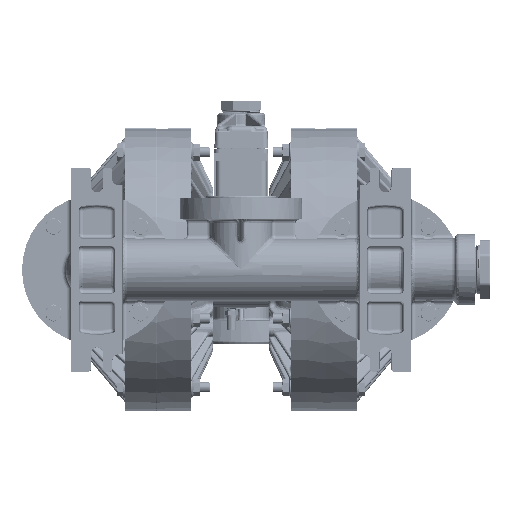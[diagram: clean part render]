
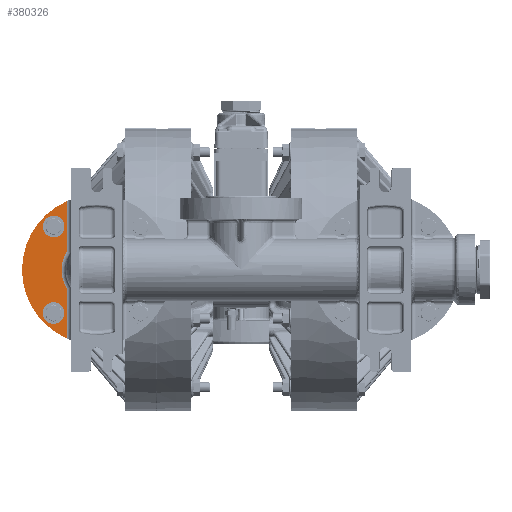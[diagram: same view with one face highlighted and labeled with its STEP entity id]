
A CAD part, front view. The second image highlights one B-rep face of the part: STEP entity #380326.
In plain terms, the highlighted planar face has unit normal (0, -1, 0).
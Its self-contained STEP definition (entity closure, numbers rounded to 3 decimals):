
#4720 = CARTESIAN_POINT ( 'NONE',  ( -8.57, -10.5, -0.895 ) ) ;
#16536 = LINE ( 'NONE', #516774, #341215 ) ;
#38113 = VECTOR ( 'NONE', #787550, 39.37 ) ;
#40031 = DIRECTION ( 'NONE',  ( 0., 1., 0. ) ) ;
#57939 = DIRECTION ( 'NONE',  ( -0.404, 0., 0.915 ) ) ;
#59308 = ORIENTED_EDGE ( 'NONE', *, *, #735595, .F. ) ;
#64632 = VERTEX_POINT ( 'NONE', #867452 ) ;
#65077 = LINE ( 'NONE', #4720, #38113 ) ;
#67402 = ORIENTED_EDGE ( 'NONE', *, *, #577866, .T. ) ;
#67473 = ORIENTED_EDGE ( 'NONE', *, *, #872135, .T. ) ;
#71580 = EDGE_CURVE ( 'NONE', #216956, #141379, #16536, .T. ) ;
#82610 = EDGE_LOOP ( 'NONE', ( #793213, #67473, #59308, #157442 ) ) ;
#99202 = CARTESIAN_POINT ( 'NONE',  ( -7.083, -10.5, 0. ) ) ;
#105317 = CARTESIAN_POINT ( 'NONE',  ( 0., -10.5, 0. ) ) ;
#130476 = DIRECTION ( 'NONE',  ( 0., 0., 1. ) ) ;
#139974 = EDGE_CURVE ( 'NONE', #141379, #259945, #268353, .T. ) ;
#141379 = VERTEX_POINT ( 'NONE', #653210 ) ;
#157442 = ORIENTED_EDGE ( 'NONE', *, *, #139974, .F. ) ;
#174871 = FACE_OUTER_BOUND ( 'NONE', #82610, .T. ) ;
#184966 = AXIS2_PLACEMENT_3D ( 'NONE', #859005, #632234, #437399 ) ;
#190904 = CARTESIAN_POINT ( 'NONE',  ( -9.207, -10.5, 2.125 ) ) ;
#205435 = CARTESIAN_POINT ( 'NONE',  ( -8.57, -10.5, 3.363 ) ) ;
#216956 = VERTEX_POINT ( 'NONE', #205435 ) ;
#219292 = AXIS2_PLACEMENT_3D ( 'NONE', #281390, #624387, #563974 ) ;
#247305 = VERTEX_POINT ( 'NONE', #671921 ) ;
#248918 = DIRECTION ( 'NONE',  ( 0., 0., -1. ) ) ;
#259945 = VERTEX_POINT ( 'NONE', #335152 ) ;
#268353 = CIRCLE ( 'NONE', #771540, 1.735 ) ;
#275646 = EDGE_LOOP ( 'NONE', ( #67402, #807913 ) ) ;
#281390 = CARTESIAN_POINT ( 'NONE',  ( -9.207, -10.5, -2.125 ) ) ;
#284759 = AXIS2_PLACEMENT_3D ( 'NONE', #105317, #387889, #248918 ) ;
#307492 = VERTEX_POINT ( 'NONE', #317128 ) ;
#317128 = CARTESIAN_POINT ( 'NONE',  ( -9.207, -10.5, 1.594 ) ) ;
#322599 = DIRECTION ( 'NONE',  ( 0., 0., -1. ) ) ;
#335152 = CARTESIAN_POINT ( 'NONE',  ( -8.57, -10.5, -0.895 ) ) ;
#335756 = EDGE_CURVE ( 'NONE', #247305, #64632, #805901, .T. ) ;
#341215 = VECTOR ( 'NONE', #850615, 39.37 ) ;
#355696 = AXIS2_PLACEMENT_3D ( 'NONE', #190904, #765172, #130476 ) ;
#380326 = ADVANCED_FACE ( 'NONE', ( #174871, #457362, #740008 ), #600913, .T. ) ;
#387889 = DIRECTION ( 'NONE',  ( 0., -1., 0. ) ) ;
#412339 = AXIS2_PLACEMENT_3D ( 'NONE', #914788, #414535, #57939 ) ;
#414535 = DIRECTION ( 'NONE',  ( 0., -1., 0. ) ) ;
#416333 = VERTEX_POINT ( 'NONE', #692866 ) ;
#437399 = DIRECTION ( 'NONE',  ( 0., 0., 1. ) ) ;
#442107 = CIRCLE ( 'NONE', #412339, 3.677 ) ;
#449134 = AXIS2_PLACEMENT_3D ( 'NONE', #665556, #40031, #322599 ) ;
#457362 = FACE_BOUND ( 'NONE', #275646, .T. ) ;
#485753 = CIRCLE ( 'NONE', #219292, 0.531 ) ;
#516774 = CARTESIAN_POINT ( 'NONE',  ( -8.57, -10.5, 3.363 ) ) ;
#560231 = ORIENTED_EDGE ( 'NONE', *, *, #770383, .T. ) ;
#563974 = DIRECTION ( 'NONE',  ( 0., 0., -1. ) ) ;
#577866 = EDGE_CURVE ( 'NONE', #64632, #247305, #485753, .T. ) ;
#590456 = VERTEX_POINT ( 'NONE', #760448 ) ;
#600913 = PLANE ( 'NONE',  #284759 ) ;
#624387 = DIRECTION ( 'NONE',  ( 0., 1., 0. ) ) ;
#632234 = DIRECTION ( 'NONE',  ( 0., 1., 0. ) ) ;
#649558 = EDGE_CURVE ( 'NONE', #307492, #590456, #848537, .T. ) ;
#653210 = CARTESIAN_POINT ( 'NONE',  ( -8.57, -10.5, 0.895 ) ) ;
#655234 = DIRECTION ( 'NONE',  ( 0., -1., 0. ) ) ;
#665556 = CARTESIAN_POINT ( 'NONE',  ( -9.207, -10.5, 2.125 ) ) ;
#671921 = CARTESIAN_POINT ( 'NONE',  ( -9.207, -10.5, -1.594 ) ) ;
#692866 = CARTESIAN_POINT ( 'NONE',  ( -8.57, -10.5, -3.363 ) ) ;
#727412 = ORIENTED_EDGE ( 'NONE', *, *, #649558, .T. ) ;
#735595 = EDGE_CURVE ( 'NONE', #259945, #416333, #65077, .T. ) ;
#740008 = FACE_BOUND ( 'NONE', #825993, .T. ) ;
#755234 = CIRCLE ( 'NONE', #355696, 0.531 ) ;
#756744 = DIRECTION ( 'NONE',  ( -0.857, 0., 0.516 ) ) ;
#760448 = CARTESIAN_POINT ( 'NONE',  ( -9.207, -10.5, 2.656 ) ) ;
#765172 = DIRECTION ( 'NONE',  ( 0., 1., 0. ) ) ;
#770383 = EDGE_CURVE ( 'NONE', #590456, #307492, #755234, .T. ) ;
#771540 = AXIS2_PLACEMENT_3D ( 'NONE', #99202, #655234, #756744 ) ;
#787550 = DIRECTION ( 'NONE',  ( 0., 0., -1. ) ) ;
#793213 = ORIENTED_EDGE ( 'NONE', *, *, #71580, .F. ) ;
#805901 = CIRCLE ( 'NONE', #184966, 0.531 ) ;
#807913 = ORIENTED_EDGE ( 'NONE', *, *, #335756, .T. ) ;
#825993 = EDGE_LOOP ( 'NONE', ( #727412, #560231 ) ) ;
#848537 = CIRCLE ( 'NONE', #449134, 0.531 ) ;
#850615 = DIRECTION ( 'NONE',  ( 0., 0., -1. ) ) ;
#859005 = CARTESIAN_POINT ( 'NONE',  ( -9.207, -10.5, -2.125 ) ) ;
#867452 = CARTESIAN_POINT ( 'NONE',  ( -9.207, -10.5, -2.656 ) ) ;
#872135 = EDGE_CURVE ( 'NONE', #216956, #416333, #442107, .T. ) ;
#914788 = CARTESIAN_POINT ( 'NONE',  ( -7.083, -10.5, 0. ) ) ;
